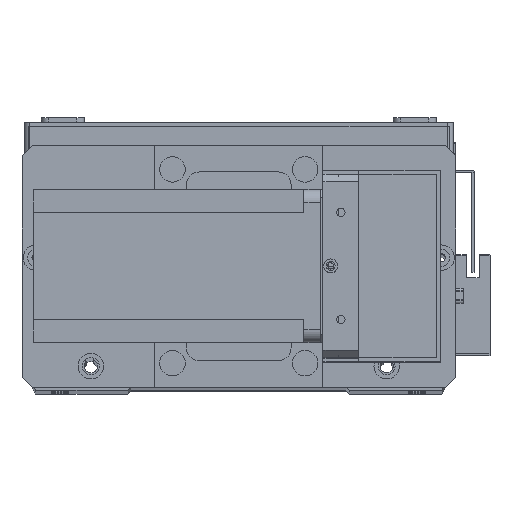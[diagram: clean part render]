
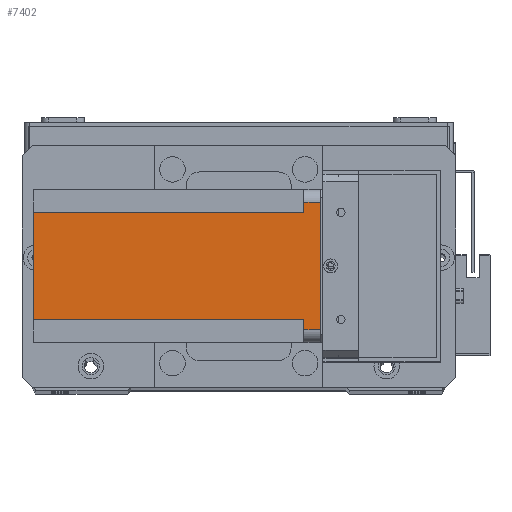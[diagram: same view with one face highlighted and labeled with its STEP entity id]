
A CAD part, top view. The second image highlights one B-rep face of the part: STEP entity #7402.
In plain terms, the highlighted planar face has unit normal (0, 0, 1) as drawn and (-1, 0, 0) by its records, which use the part's own axes.
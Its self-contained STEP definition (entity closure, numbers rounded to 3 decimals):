
#172 = CARTESIAN_POINT ( 'NONE',  ( 0., 55., -6.5 ) ) ;
#741 = VECTOR ( 'NONE', #14968, 1000. ) ;
#868 = LINE ( 'NONE', #5616, #741 ) ;
#1052 = DIRECTION ( 'NONE',  ( 0., -1., 0. ) ) ;
#1134 = ORIENTED_EDGE ( 'NONE', *, *, #9284, .F. ) ;
#1234 = ORIENTED_EDGE ( 'NONE', *, *, #9340, .T. ) ;
#1303 = VECTOR ( 'NONE', #4739, 1000. ) ;
#1695 = LINE ( 'NONE', #30643, #1303 ) ;
#1781 = ORIENTED_EDGE ( 'NONE', *, *, #9100, .F. ) ;
#2106 = ORIENTED_EDGE ( 'NONE', *, *, #9418, .T. ) ;
#2114 = PLANE ( 'NONE',  #27320 ) ;
#2151 = DIRECTION ( 'NONE',  ( 0., -1., 0. ) ) ;
#2425 = ORIENTED_EDGE ( 'NONE', *, *, #9471, .F. ) ;
#2481 = ORIENTED_EDGE ( 'NONE', *, *, #9502, .F. ) ;
#2888 = LINE ( 'NONE', #7084, #3097 ) ;
#3097 = VECTOR ( 'NONE', #13592, 1000. ) ;
#3171 = VERTEX_POINT ( 'NONE', #18217 ) ;
#3630 = VERTEX_POINT ( 'NONE', #14835 ) ;
#3718 = ORIENTED_EDGE ( 'NONE', *, *, #9605, .T. ) ;
#4211 = ORIENTED_EDGE ( 'NONE', *, *, #9653, .F. ) ;
#4247 = LINE ( 'NONE', #24625, #4343 ) ;
#4343 = VECTOR ( 'NONE', #22905, 1000. ) ;
#4739 = DIRECTION ( 'NONE',  ( 0., 1., 0. ) ) ;
#5050 = LINE ( 'NONE', #18311, #5292 ) ;
#5196 = VERTEX_POINT ( 'NONE', #13521 ) ;
#5292 = VECTOR ( 'NONE', #26000, 1000. ) ;
#5616 = CARTESIAN_POINT ( 'NONE',  ( 0., 51., -112.5 ) ) ;
#7084 = CARTESIAN_POINT ( 'NONE',  ( 0., 55., -112.5 ) ) ;
#7173 = LINE ( 'NONE', #12812, #7362 ) ;
#7362 = VECTOR ( 'NONE', #10810, 1000. ) ;
#7402 = ADVANCED_FACE ( 'NONE', ( #28717 ), #2114, .T. ) ;
#9080 = CARTESIAN_POINT ( 'NONE',  ( 0., 5., -6.5 ) ) ;
#9100 = EDGE_CURVE ( 'NONE', #25795, #5196, #7173, .T. ) ;
#9284 = EDGE_CURVE ( 'NONE', #20154, #16263, #5050, .T. ) ;
#9340 = EDGE_CURVE ( 'NONE', #20154, #5196, #4247, .T. ) ;
#9418 = EDGE_CURVE ( 'NONE', #25795, #26008, #2888, .T. ) ;
#9471 = EDGE_CURVE ( 'NONE', #23451, #26008, #1695, .T. ) ;
#9502 = EDGE_CURVE ( 'NONE', #3171, #23451, #868, .T. ) ;
#9605 = EDGE_CURVE ( 'NONE', #3171, #3630, #30120, .T. ) ;
#9653 = EDGE_CURVE ( 'NONE', #16263, #3630, #30411, .T. ) ;
#10810 = DIRECTION ( 'NONE',  ( 0., -1., 0. ) ) ;
#12812 = CARTESIAN_POINT ( 'NONE',  ( 0., 0., 0. ) ) ;
#13521 = CARTESIAN_POINT ( 'NONE',  ( 0., 5., 0. ) ) ;
#13592 = DIRECTION ( 'NONE',  ( 0., 0., -1. ) ) ;
#13739 = CARTESIAN_POINT ( 'NONE',  ( 0., 0., -112.5 ) ) ;
#13852 = CARTESIAN_POINT ( 'NONE',  ( 0., 0., -112.5 ) ) ;
#14835 = CARTESIAN_POINT ( 'NONE',  ( 0., 9., -112.5 ) ) ;
#14968 = DIRECTION ( 'NONE',  ( 0., 0., 1. ) ) ;
#16263 = VERTEX_POINT ( 'NONE', #29046 ) ;
#17622 = DIRECTION ( 'NONE',  ( 0., 0., -1. ) ) ;
#18217 = CARTESIAN_POINT ( 'NONE',  ( 0., 51., -112.5 ) ) ;
#18311 = CARTESIAN_POINT ( 'NONE',  ( 0., 0., -6.5 ) ) ;
#18537 = CARTESIAN_POINT ( 'NONE',  ( 0., 55., 0. ) ) ;
#20154 = VERTEX_POINT ( 'NONE', #9080 ) ;
#21595 = CARTESIAN_POINT ( 'NONE',  ( 0., 9., -112.5 ) ) ;
#22905 = DIRECTION ( 'NONE',  ( 0., 0., 1. ) ) ;
#23451 = VERTEX_POINT ( 'NONE', #28866 ) ;
#24625 = CARTESIAN_POINT ( 'NONE',  ( 0., 5., -112.5 ) ) ;
#25795 = VERTEX_POINT ( 'NONE', #18537 ) ;
#25872 = DIRECTION ( 'NONE',  ( -1., 0., 0. ) ) ;
#26000 = DIRECTION ( 'NONE',  ( 0., 1., 0. ) ) ;
#26008 = VERTEX_POINT ( 'NONE', #172 ) ;
#26563 = EDGE_LOOP ( 'NONE', ( #1134, #1234, #1781, #2106, #2425, #2481, #3718, #4211 ) ) ;
#27320 = AXIS2_PLACEMENT_3D ( 'NONE', #13852, #25872, #2151 ) ;
#28717 = FACE_OUTER_BOUND ( 'NONE', #26563, .T. ) ;
#28718 = VECTOR ( 'NONE', #17622, 1000. ) ;
#28866 = CARTESIAN_POINT ( 'NONE',  ( 0., 51., -6.5 ) ) ;
#29046 = CARTESIAN_POINT ( 'NONE',  ( 0., 9., -6.5 ) ) ;
#30120 = LINE ( 'NONE', #13739, #30574 ) ;
#30411 = LINE ( 'NONE', #21595, #28718 ) ;
#30574 = VECTOR ( 'NONE', #1052, 1000. ) ;
#30643 = CARTESIAN_POINT ( 'NONE',  ( 0., 60., -6.5 ) ) ;
